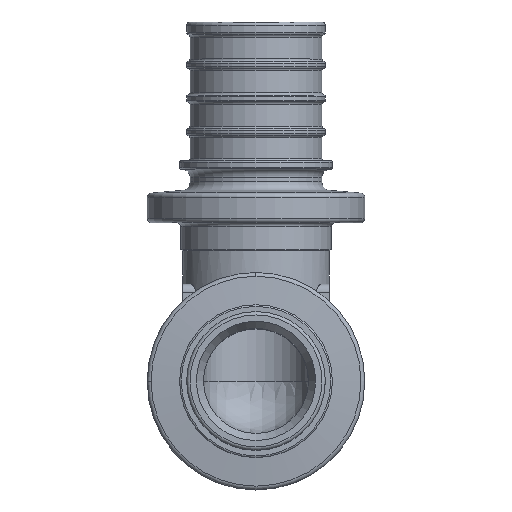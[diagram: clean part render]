
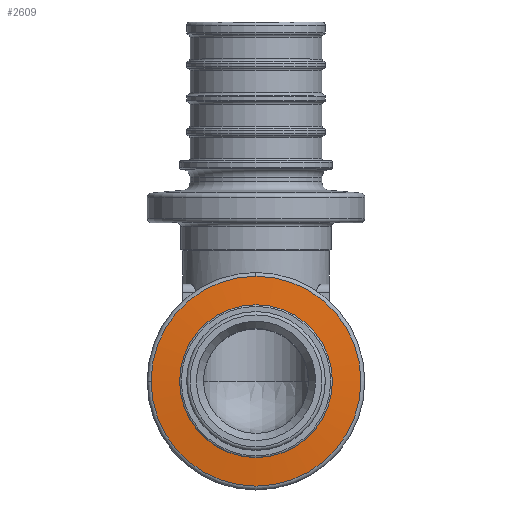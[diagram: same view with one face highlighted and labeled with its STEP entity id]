
A CAD part, top view. The second image highlights one B-rep face of the part: STEP entity #2609.
In plain terms, the highlighted conical face has half-angle 85 degrees and reference radius 10.628 mm.
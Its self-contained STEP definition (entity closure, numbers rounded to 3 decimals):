
#2609=ADVANCED_FACE('',(#5326,#5328),#5330,.T.);
#5326=FACE_BOUND('',#5327,.T.);
#5327=EDGE_LOOP('',(#7969,#7970));
#5328=FACE_BOUND('',#5329,.T.);
#5329=EDGE_LOOP('',(#7971,#7972));
#5330=CONICAL_SURFACE('',#5331,10.628,1.484);
#5331=AXIS2_PLACEMENT_3D('',#5332,#5333,#5334);
#5332=CARTESIAN_POINT('',(0.,0.,22.603));
#5333=DIRECTION('',(0.,0.,-1.));
#5334=DIRECTION('',(0.,-1.,0.));
#7969=ORIENTED_EDGE('',*,*,#8919,.T.);
#7970=ORIENTED_EDGE('',*,*,#8920,.T.);
#7971=ORIENTED_EDGE('',*,*,#8914,.T.);
#7972=ORIENTED_EDGE('',*,*,#8912,.T.);
#8912=EDGE_CURVE('',#10293,#10291,#10294,.T.);
#8914=EDGE_CURVE('',#10291,#10293,#10296,.T.);
#8919=EDGE_CURVE('',#10303,#10304,#10305,.F.);
#8920=EDGE_CURVE('',#10304,#10303,#10306,.F.);
#10291=VERTEX_POINT('',#13695);
#10293=VERTEX_POINT('',#13700);
#10294=CIRCLE('',#13701,12.494);
#10296=CIRCLE('',#13709,12.494);
#10303=VERTEX_POINT('',#13731);
#10304=VERTEX_POINT('',#13732);
#10305=CIRCLE('',#13733,8.763);
#10306=CIRCLE('',#13737,8.763);
#13695=CARTESIAN_POINT('',(0.,12.494,22.44));
#13700=CARTESIAN_POINT('',(-12.494,0.,22.44));
#13701=AXIS2_PLACEMENT_3D('',#13702,#13703,#13704);
#13702=CARTESIAN_POINT('',(0.,0.,22.44));
#13703=DIRECTION('',(0.,0.,1.));
#13704=DIRECTION('',(-1.,0.,0.));
#13709=AXIS2_PLACEMENT_3D('',#13710,#13711,#13712);
#13710=CARTESIAN_POINT('',(0.,0.,22.44));
#13711=DIRECTION('',(0.,0.,1.));
#13712=DIRECTION('',(0.,1.,0.));
#13731=CARTESIAN_POINT('',(8.763,0.,22.766));
#13732=CARTESIAN_POINT('',(0.,8.763,22.766));
#13733=AXIS2_PLACEMENT_3D('',#13734,#13735,#13736);
#13734=CARTESIAN_POINT('',(0.,0.,22.766));
#13735=DIRECTION('',(0.,0.,1.));
#13736=DIRECTION('',(0.,1.,0.));
#13737=AXIS2_PLACEMENT_3D('',#13738,#13739,#13740);
#13738=CARTESIAN_POINT('',(0.,0.,22.766));
#13739=DIRECTION('',(0.,0.,1.));
#13740=DIRECTION('',(1.,0.,0.));
